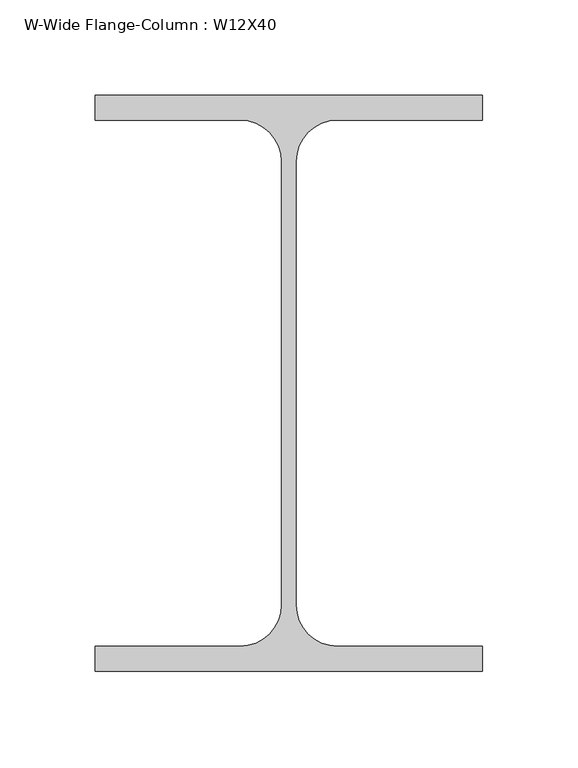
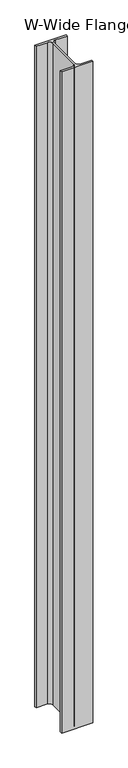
"""IFC4 building model written with IfcOpenShell, lengths in millimetres: column geometry, W-Wide Flange-Column : W12X40."""

from ifc_helpers import new_model, si_unit, point, frame, frame_2d, origin, place, context, project, spatial, polyline, circle_curve, trimmed, segment, composite_curve, outline, extrude, source, transform, mapped, element, save


def w_wide_flange_column_w12x40_86d17192(model_context):
    return source(origin(), model_context, "Body", "SweptSolid", [
        extrude(outline(composite_curve([segment(polyline([(101.727, 151.13), (101.727, 138.049), (25.5905, 138.049)]), True, "CONTINUOUS"), segment(trimmed(circle_curve(frame_2d((25.5905, 116.205)), 21.844), [point((25.5905, 138.049))], [point((3.7465, 116.205))], True, "CARTESIAN"), True, "CONTINUOUS"), segment(polyline([(3.7465, 116.205), (3.7465, -116.205)]), True, "CONTINUOUS"), segment(trimmed(circle_curve(frame_2d((25.5905, -116.205)), 21.844), [point((3.7465, -116.205))], [point((25.5905, -138.049))], True, "CARTESIAN"), True, "CONTINUOUS"), segment(polyline([(25.5905, -138.049), (101.727, -138.049), (101.727, -151.13), (-101.727, -151.13), (-101.727, -138.049), (-25.5905, -138.049)]), True, "CONTINUOUS"), segment(trimmed(circle_curve(frame_2d((-25.5905, -116.205)), 21.844), [point((-25.5905, -138.049))], [point((-3.7465, -116.205))], True, "CARTESIAN"), True, "CONTINUOUS"), segment(polyline([(-3.7465, -116.205), (-3.7465, 116.205)]), True, "CONTINUOUS"), segment(trimmed(circle_curve(frame_2d((-25.5905, 116.205)), 21.844), [point((-3.7465, 116.205))], [point((-25.5905, 138.049))], True, "CARTESIAN"), True, "CONTINUOUS"), segment(polyline([(-25.5905, 138.049), (-101.727, 138.049), (-101.727, 151.13), (101.727, 151.13)]), True, "CONTINUOUS")], self_intersect=False)), frame((0.0, 0.0, 4445.0), z_axis=(0.0, 0.0, 1.0), x_axis=(1.0, 0.0, 0.0)), (0.0, 0.0, 1.0), 4572.0),
    ])


if __name__ == "__main__":
    model = new_model("IFC4")
    model_context = context("Model", 3, world=origin())
    ifc_project = project(units=[si_unit("LENGTHUNIT", "METRE", prefix="MILLI")], contexts=[model_context])
    site = spatial("IfcSite", under=ifc_project)
    building = spatial("IfcBuilding", under=site)
    placement = place(None, origin())
    w_wide_flange_column_w12x40_shape = w_wide_flange_column_w12x40_86d17192(model_context)
    element("IfcColumn", 1, ObjectType="W-Wide Flange-Column : W12X40", at=placement, inside=building, context=model_context, shape_type="MappedRepresentation", body=[
        mapped(w_wide_flange_column_w12x40_shape, transform((0.0, 0.0, 0.0), x_axis=(1.0, 0.0, 0.0), y_axis=(0.0, 1.0, 0.0), z_axis=(0.0, 0.0, 1.0))),
    ])
    save(model, "model.ifc")
